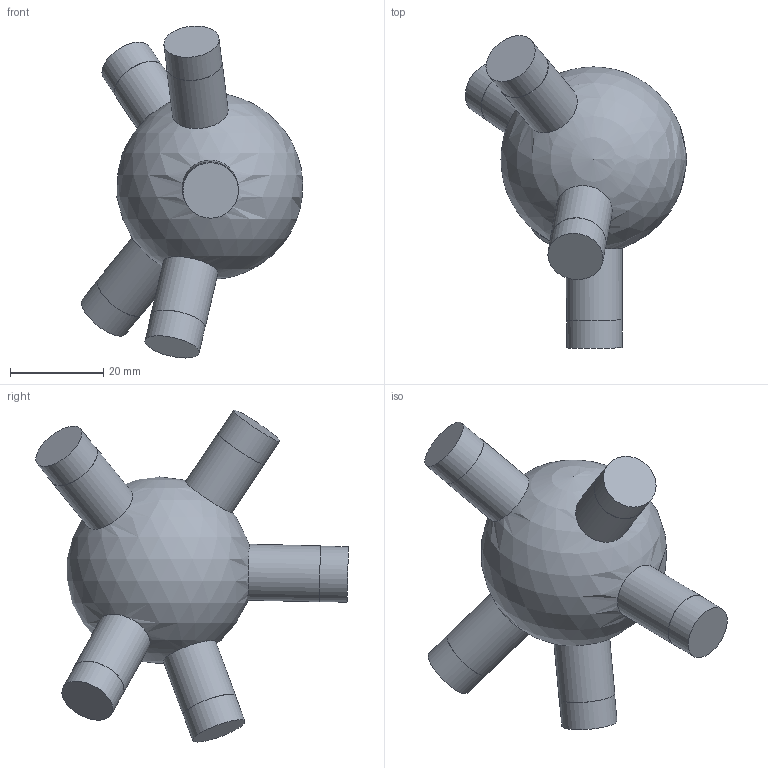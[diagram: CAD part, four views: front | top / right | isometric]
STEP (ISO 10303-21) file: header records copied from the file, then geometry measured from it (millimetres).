
FILE_DESCRIPTION(('Open CASCADE Model'),'2;1');
FILE_NAME('Open CASCADE Shape Model','2026-10-21T12:47:57',('Author'),( 'Open CASCADE'),'Open CASCADE STEP processor 7.9','Open CASCADE 7.9' ,'Unknown');
FILE_SCHEMA(('AUTOMOTIVE_DESIGN { 1 0 10303 214 1 1 1 1 }'));
Length unit declared in the file: millimetre
Products named in the file (1): Open CASCADE STEP translator 7.9 63
Bounding box: 47.48 x 67.01 x 71.19 mm (x, y, z)
Volume: 44262.3 mm3; surface area: 8694.1 mm2
Topology: 1 solids, 1 shells, 21 faces, 33 edges, 22 vertices
Faces by surface type: cylinder 10, plane 10, sphere 1
Full cylindrical faces by diameter (mm): 11.9 x5, 12 x5
Entity records: 1248 total; most frequent: CARTESIAN_POINT 523, DIRECTION 149, ORIENTED_EDGE 60, PCURVE 60, DEFINITIONAL_REPRESENTATION 60, LINE 50, VECTOR 50, AXIS2_PLACEMENT_3D 42
